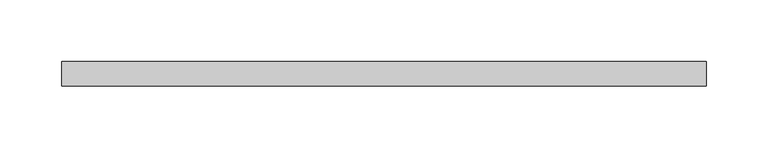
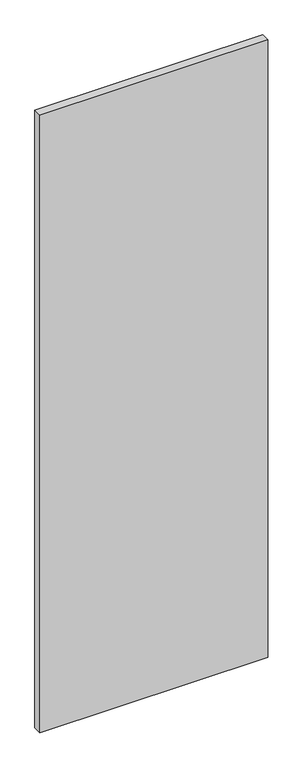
"""IFC4 building model written with IfcOpenShell, lengths in millimetres: proxy geometry, КНАУФ-Файерборд : КНАУФ-Файерборд."""

from ifc_helpers import new_model, si_unit, origin, origin_with_axes, place, context, project, spatial, polyline, outline, extrude, source, transform, mapped, element, save


def generic_models_18763be3(model_context):
    return source(origin(), model_context, "Body", "SweptSolid", [
        extrude(outline(polyline([(261.5, 0.0), (-261.5, 0.0), (-261.5, 20.0), (261.5, 20.0), (261.5, 0.0)])), origin_with_axes(), (0.0, 0.0, 1.0), 1500.0),
    ])


if __name__ == "__main__":
    model = new_model("IFC4")
    model_context = context("Model", 3, world=origin())
    ifc_project = project(units=[si_unit("LENGTHUNIT", "METRE", prefix="MILLI")], contexts=[model_context])
    site = spatial("IfcSite", under=ifc_project)
    building = spatial("IfcBuilding", under=site)
    placement = place(None, origin())
    generic_models_shape = generic_models_18763be3(model_context)
    element("IfcBuildingElementProxy", 1, Name="КНАУФ-Файерборд : КНАУФ-Файерборд", ObjectType="КНАУФ-Файерборд : КНАУФ-Файерборд", at=placement, inside=building, context=model_context, shape_type="MappedRepresentation", body=[
        mapped(generic_models_shape, transform((0.0, 0.0, 0.0), x_axis=(1.0, 0.0, 0.0), y_axis=(0.0, 1.0, 0.0), z_axis=(0.0, 0.0, 1.0))),
    ])
    save(model, "model.ifc")
